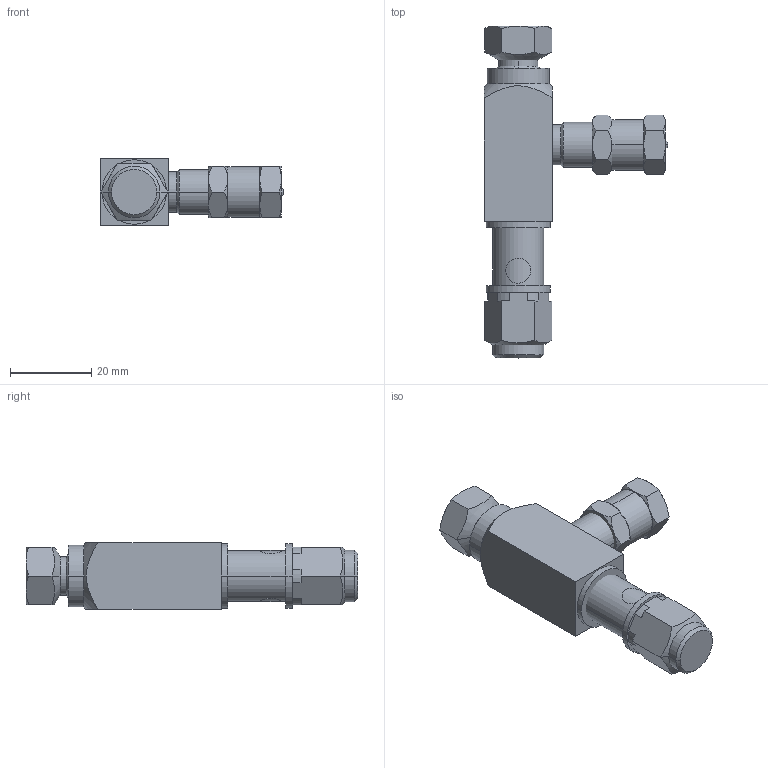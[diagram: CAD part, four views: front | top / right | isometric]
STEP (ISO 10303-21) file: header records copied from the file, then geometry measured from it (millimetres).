
FILE_DESCRIPTION((''),'2;1');
FILE_NAME('24F508-EN-H_PRT','2022-02-14T11:45:33',('qtmwp1'),(''),'CREO PARAMETRIC BY PTC INC, 2021072','CREO PARAMETRIC BY PTC INC, 2021072','');
FILE_SCHEMA(('CONFIG_CONTROL_DESIGN'));
Length unit declared in the file: inch
Products named in the file (1): 24F508-EN-H_PRT
Bounding box: 45.26 x 81.92 x 16.51 mm (x, y, z)
Surface area: 8098.4 mm2 (no closed solid volume)
Topology: 0 solids, 13 shells, 117 faces, 278 edges, 172 vertices
Faces by surface type: plane 45, cone 42, cylinder 28, bspline 2
Entity records: 3939 total; most frequent: CARTESIAN_POINT 1355, ORIENTED_EDGE 516, DIRECTION 512, EDGE_CURVE 278, AXIS2_PLACEMENT_3D 205, VERTEX_POINT 172, EDGE_LOOP 117, FACE_OUTER_BOUND 117
